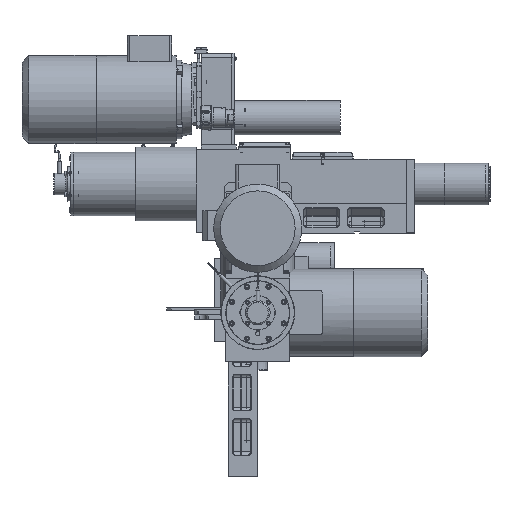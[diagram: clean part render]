
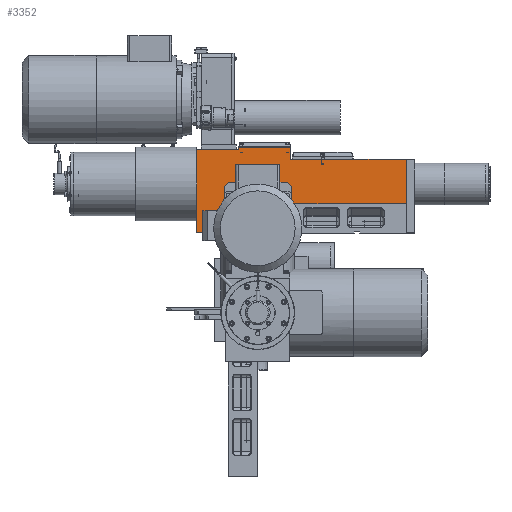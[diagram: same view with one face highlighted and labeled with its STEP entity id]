
A CAD part, front view. The second image highlights one B-rep face of the part: STEP entity #3352.
In plain terms, the highlighted planar face has unit normal (0, -1, 0).
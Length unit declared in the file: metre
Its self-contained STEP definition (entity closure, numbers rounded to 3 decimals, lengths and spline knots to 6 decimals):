
#3352 = ADVANCED_FACE( '', ( #5178 ), #5179, .T. );
#5178 = FACE_OUTER_BOUND( '', #9881, .T. );
#5179 = PLANE( '', #9882 );
#9881 = EDGE_LOOP( '', ( #16489, #16490, #16491, #16492, #16493, #16494, #16495, #16496, #16497, #16498 ) );
#9882 = AXIS2_PLACEMENT_3D( '', #16499, #16500, #16501 );
#16489 = ORIENTED_EDGE( '', *, *, #21937, .T. );
#16490 = ORIENTED_EDGE( '', *, *, #21930, .T. );
#16491 = ORIENTED_EDGE( '', *, *, #21928, .F. );
#16492 = ORIENTED_EDGE( '', *, *, #21934, .T. );
#16493 = ORIENTED_EDGE( '', *, *, #21938, .T. );
#16494 = ORIENTED_EDGE( '', *, *, #21939, .T. );
#16495 = ORIENTED_EDGE( '', *, *, #21940, .T. );
#16496 = ORIENTED_EDGE( '', *, *, #21941, .T. );
#16497 = ORIENTED_EDGE( '', *, *, #21924, .T. );
#16498 = ORIENTED_EDGE( '', *, *, #21915, .T. );
#16499 = CARTESIAN_POINT( '', ( 0.337, -0.003889, 0. ) );
#16500 = DIRECTION( '', ( 0., -1., 0. ) );
#16501 = DIRECTION( '', ( 1., 0., 0. ) );
#21915 = EDGE_CURVE( '', #24935, #24939, #24941, .T. );
#21924 = EDGE_CURVE( '', #24956, #24935, #24957, .T. );
#21928 = EDGE_CURVE( '', #24961, #24959, #24963, .T. );
#21930 = EDGE_CURVE( '', #24964, #24959, #24966, .T. );
#21934 = EDGE_CURVE( '', #24961, #24971, #24973, .T. );
#21937 = EDGE_CURVE( '', #24939, #24964, #24977, .T. );
#21938 = EDGE_CURVE( '', #24971, #24978, #24979, .T. );
#21939 = EDGE_CURVE( '', #24978, #24980, #24981, .T. );
#21940 = EDGE_CURVE( '', #24980, #24982, #24983, .T. );
#21941 = EDGE_CURVE( '', #24982, #24956, #24984, .T. );
#24935 = VERTEX_POINT( '', #30963 );
#24939 = VERTEX_POINT( '', #30969 );
#24941 = LINE( '', #30972, #30973 );
#24956 = VERTEX_POINT( '', #30996 );
#24957 = LINE( '', #30997, #30998 );
#24959 = VERTEX_POINT( '', #31001 );
#24961 = VERTEX_POINT( '', #31004 );
#24963 = LINE( '', #31007, #31008 );
#24964 = VERTEX_POINT( '', #31009 );
#24966 = LINE( '', #31012, #31013 );
#24971 = VERTEX_POINT( '', #31020 );
#24973 = LINE( '', #31023, #31024 );
#24977 = LINE( '', #31030, #31031 );
#24978 = VERTEX_POINT( '', #31032 );
#24979 = LINE( '', #31033, #31034 );
#24980 = VERTEX_POINT( '', #31035 );
#24981 = LINE( '', #31036, #31037 );
#24982 = VERTEX_POINT( '', #31038 );
#24983 = LINE( '', #31039, #31040 );
#24984 = LINE( '', #31041, #31042 );
#30963 = CARTESIAN_POINT( '', ( -0.003, -0.003889, 0.115 ) );
#30969 = CARTESIAN_POINT( '', ( -0.003, -0.003889, 0.11 ) );
#30972 = CARTESIAN_POINT( '', ( -0.003, -0.003889, 0.058735 ) );
#30973 = VECTOR( '', #36314, 1. );
#30996 = CARTESIAN_POINT( '', ( 0.102, -0.003889, 0.115 ) );
#30997 = CARTESIAN_POINT( '', ( -0.005, -0.003889, 0.115 ) );
#30998 = VECTOR( '', #36323, 1. );
#31001 = CARTESIAN_POINT( '', ( -0.088, -0.003889, -0.059 ) );
#31004 = CARTESIAN_POINT( '', ( -0.005, -0.003889, -0.059 ) );
#31007 = CARTESIAN_POINT( '', ( -0.005, -0.003889, -0.059 ) );
#31008 = VECTOR( '', #36327, 1. );
#31009 = CARTESIAN_POINT( '', ( -0.088, -0.003889, 0.11 ) );
#31012 = CARTESIAN_POINT( '', ( -0.088, -0.003889, -0.059 ) );
#31013 = VECTOR( '', #36329, 1. );
#31020 = CARTESIAN_POINT( '', ( -0.005, -0.003889, 0. ) );
#31023 = CARTESIAN_POINT( '', ( -0.005, -0.003889, -0.059 ) );
#31024 = VECTOR( '', #36333, 1. );
#31030 = CARTESIAN_POINT( '', ( 0.14575, -0.003889, 0.11 ) );
#31031 = VECTOR( '', #36336, 1. );
#31032 = CARTESIAN_POINT( '', ( 0.337, -0.003889, 0. ) );
#31033 = CARTESIAN_POINT( '', ( -0.005, -0.003889, 0. ) );
#31034 = VECTOR( '', #36337, 1. );
#31035 = CARTESIAN_POINT( '', ( 0.337, -0.003889, 0.09 ) );
#31036 = CARTESIAN_POINT( '', ( 0.337, -0.003889, 0. ) );
#31037 = VECTOR( '', #36338, 1. );
#31038 = CARTESIAN_POINT( '', ( 0.102, -0.003889, 0.09 ) );
#31039 = CARTESIAN_POINT( '', ( -0.005, -0.003889, 0.09 ) );
#31040 = VECTOR( '', #36339, 1. );
#31041 = CARTESIAN_POINT( '', ( 0.102, -0.003889, 0.09 ) );
#31042 = VECTOR( '', #36340, 1. );
#36314 = DIRECTION( '', ( 0., 0., -1. ) );
#36323 = DIRECTION( '', ( -1., 0., 0. ) );
#36327 = DIRECTION( '', ( -1., 0., 0. ) );
#36329 = DIRECTION( '', ( 0., 0., -1. ) );
#36333 = DIRECTION( '', ( 0., 0., 1. ) );
#36336 = DIRECTION( '', ( -1., 0., 0. ) );
#36337 = DIRECTION( '', ( 1., 0., 0. ) );
#36338 = DIRECTION( '', ( 0., 0., 1. ) );
#36339 = DIRECTION( '', ( -1., 0., 0. ) );
#36340 = DIRECTION( '', ( 0., 0., 1. ) );
